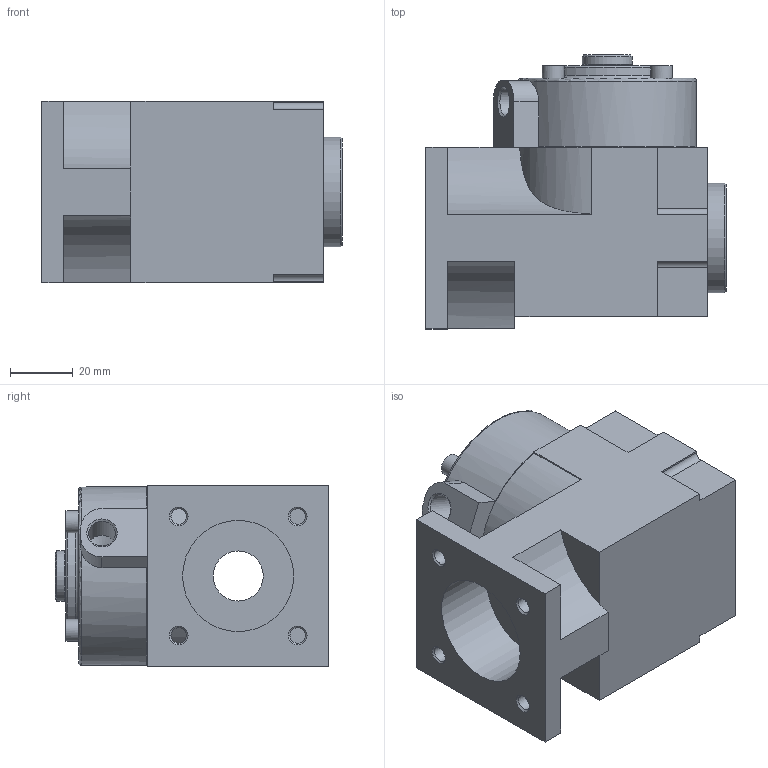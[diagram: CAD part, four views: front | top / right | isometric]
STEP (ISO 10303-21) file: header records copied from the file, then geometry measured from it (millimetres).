
FILE_DESCRIPTION( ( 'STEP AP214' ), ' ' );
FILE_NAME( 'p:/temp/worker_195/2536_3460/app_62_02016021213410912855268192d056f_000000_00_00_000000/format_0/L1-N04016.stp', '2016-02-12T12:41:10', ( '' ), ( '' ), ' ', 'PARTsolutions', ' ' );
FILE_SCHEMA( ( 'AUTOMOTIVE_DESIGN { 1 0 10303 214 1 1 1 1 }' ) );
Length unit declared in the file: millimetre
Products named in the file (1): _L1-N04016
Bounding box: 96 x 87.5 x 58 mm (x, y, z)
Volume: 284268.3 mm3; surface area: 40837.3 mm2
Topology: 1 solids, 1 shells, 145 faces, 365 edges, 232 vertices
Faces by surface type: plane 86, cylinder 33, cone 22, torus 4
Full cylindrical faces by diameter (mm): 1.5 x1, 4.917 x8, 7 x4, 8.566 x1, 16 x2, 22.4 x1, 35 x1, 35.5 x1, 40 x1
Entity records: 5283 total; most frequent: CARTESIAN_POINT 805, DIRECTION 691, ORIENTED_EDGE 612, EDGE_CURVE 306, AXIS2_PLACEMENT_3D 251, VERTEX_POINT 223, EDGE_LOOP 210, LINE 189
